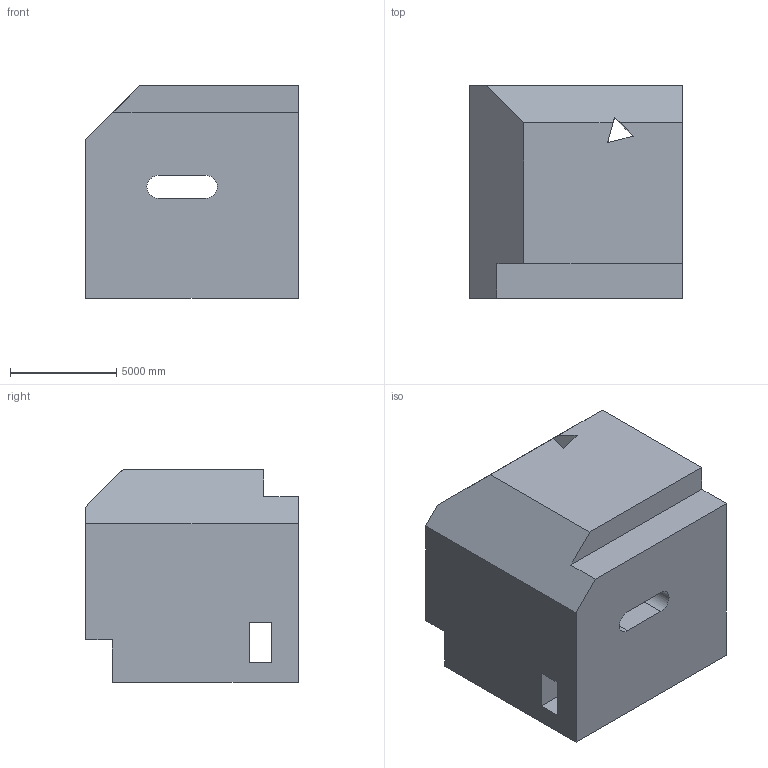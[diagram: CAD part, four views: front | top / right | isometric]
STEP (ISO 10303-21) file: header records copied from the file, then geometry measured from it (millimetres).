
FILE_DESCRIPTION (( 'STEP AP203' ), '1' );
FILE_NAME ('325.STEP', '2022-09-07T12:53:16', ( 'user' ), ( '' ), 'SwSTEP 2.0', 'SolidWorks 2021', '' );
FILE_SCHEMA (( 'CONFIG_CONTROL_DESIGN' ));
Length unit declared in the file: centimetre
Products named in the file (1): 325
Bounding box: 10000 x 10000 x 10000 mm (x, y, z)
Volume: 853592593542.7 mm3; surface area: 722594218.8 mm2
Topology: 1 solids, 1 shells, 23 faces, 66 edges, 44 vertices
Faces by surface type: plane 21, cylinder 2
Entity records: 833 total; most frequent: CARTESIAN_POINT 134, ORIENTED_EDGE 132, DIRECTION 118, EDGE_CURVE 66, VECTOR 62, LINE 62, VERTEX_POINT 44, EDGE_LOOP 28
